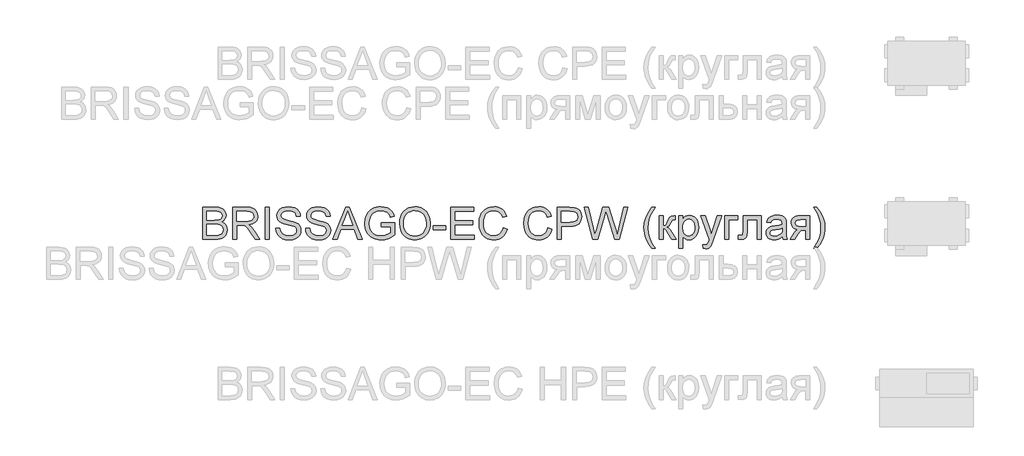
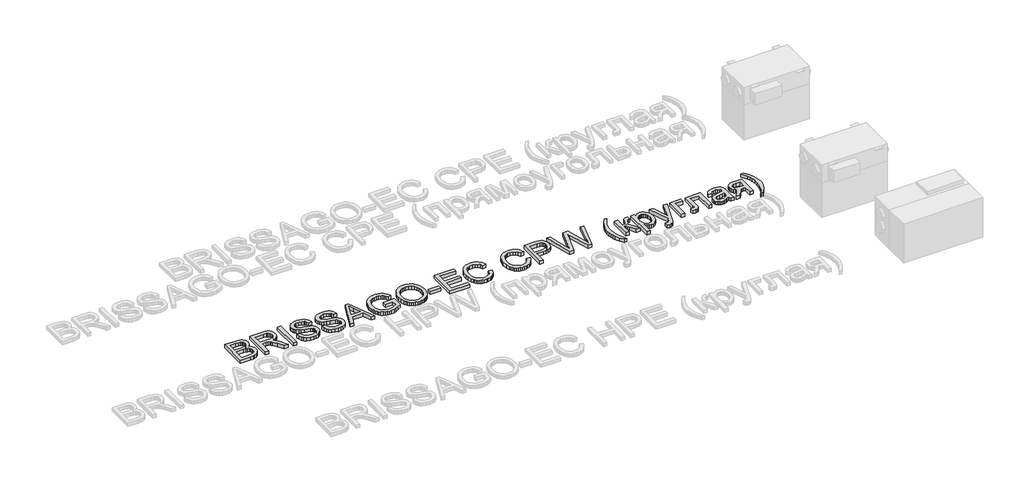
# One storey, part 10 of 28: 1 proxy.
"""IFC4 building model written with IfcOpenShell, lengths in millimetres."""

from ifc_helpers import new_model, si_unit, origin, origin_with_axes, place, context, project, spatial, polyline, outline, extrude, element, save

model = new_model("IFC4")

# Units and contexts
model_context = context("Model", 3, world=origin())
ifc_project = project(units=[si_unit("LENGTHUNIT", "METRE", prefix="MILLI")], contexts=[model_context])

# Site, building, storey
site = spatial("IfcSite", under=ifc_project)
building = spatial("IfcBuilding", under=site)
storey = spatial("IfcBuildingStorey", under=building, Name="Уровень 1", Elevation=0.0)

# Proxy
placement = place(None, origin())
element("IfcBuildingElementProxy", 1, Name="400 мм Arial", ObjectType="400 мм Arial", at=placement, inside=storey, context=model_context, shape_type="SweptSolid", body=[
    extrude(outline(polyline([(-29713.9650694, -4348.7092589), (-29713.9650694, -3946.8840183), (-29560.6318538, -3946.8840183), (-29518.4603145, -3949.839337), (-29485.5348759, -3958.705293), (-29460.298171, -3973.7026157), (-29441.1928327, -3995.0520342), (-29429.1630915, -4020.1661117), (-29425.1531778, -4046.4574116), (-29428.5254294, -4070.6517842), (-29438.6421842, -4093.3991542), (-29455.5770188, -4113.3015701), (-29479.4035093, -4128.9610804), (-29450.9417056, -4143.823513), (-29429.9111182, -4166.435993), (-29416.9248838, -4195.3024669), (-29412.596139, -4228.9268812), (-29415.5514577, -4256.9472265), (-29424.4174138, -4282.9319581), (-29437.6489029, -4305.0294033), (-29453.7008206, -4321.3878893), (-29473.3579819, -4333.2336896), (-29497.4052016, -4341.7930773), (-29526.6272948, -4346.9802135), (-29561.8090762, -4348.7092589), (-29713.9650694, -4348.7092589)]), holes=[polyline([(-29663.7369144, -4110.1255223), (-29572.0116702, -4110.1255223), (-29518.4480517, -4105.8090402), (-29499.6983327, -4098.3655611), (-29486.221589, -4087.2187367), (-29478.0913969, -4072.5402451), (-29475.3813328, -4054.5017646), (-29477.9074559, -4036.9905816), (-29485.485825, -4021.7357415), (-29497.7730836, -4009.8286276), (-29514.4258753, -4002.3606231), (-29539.9814112, -3998.4242858), (-29578.9769027, -3997.1121733), (-29663.7369144, -3997.1121733), (-29663.7369144, -4110.1255223)]), polyline([(-29663.7369144, -4298.4811038), (-29560.7299557, -4298.4811038), (-29523.4512469, -4296.5190665), (-29491.9114972, -4285.5807085), (-29480.335477, -4276.1506667), (-29471.0157998, -4263.2625341), (-29464.8721705, -4247.4926593), (-29462.8242941, -4229.4173906), (-29465.2277898, -4208.4235914), (-29472.4382769, -4190.3728481), (-29485.0321038, -4176.2584423), (-29503.5856191, -4167.0736551), (-29529.8646563, -4162.0336718), (-29565.635049, -4160.3536773), (-29663.7369144, -4160.3536773), (-29663.7369144, -4298.4811038)])]), origin_with_axes(), (0.0, 0.0, 1.0), 50.0),
    extrude(outline(polyline([(-29343.5324258, -4348.7092589), (-29343.5324258, -3946.8840183), (-29170.3826334, -3946.8840183), (-29123.845561, -3949.5940823), (-29089.9881547, -3957.7242744), (-29065.2419591, -3972.7338598), (-29046.038519, -3996.0821037), (-29033.7144722, -4025.0344168), (-29029.6064565, -4056.8562094), (-29031.3079108, -4077.4943893), (-29036.4122735, -4096.440312), (-29044.9195446, -4113.6939776), (-29056.8297242, -4129.255386), (-29072.2960964, -4142.6278965), (-29091.4719454, -4153.3148685), (-29114.3572712, -4161.3163019), (-29140.9520738, -4166.6321967), (-29112.4044309, -4188.1165052), (-29071.6921568, -4239.8161883), (-29004.6885827, -4348.7092589), (-29063.0591926, -4348.7092589), (-29115.3474869, -4265.4207751), (-29153.1167051, -4210.2875268), (-29167.1575345, -4194.2110836), (-29179.6532596, -4184.2414815), (-29203.5410639, -4174.6765497), (-29232.6773179, -4172.9107161), (-29293.3042707, -4172.9107161), (-29293.3042707, -4348.7092589), (-29343.5324258, -4348.7092589)]), holes=[polyline([(-29293.3042707, -4122.682561), (-29180.879533, -4122.682561), (-29148.5917565, -4120.9044647), (-29123.5389926, -4115.5701758), (-29104.678909, -4106.324075), (-29090.9691733, -4092.810543), (-29082.6182521, -4076.4643197), (-29079.8346116, -4058.7201448), (-29085.1443751, -4034.2192039), (-29101.0736655, -4014.4762035), (-29113.2352311, -4006.8794403), (-29128.4808741, -4001.4531809), (-29168.2243923, -3997.1121733), (-29293.3042707, -3997.1121733), (-29293.3042707, -4122.682561)])]), origin_with_axes(), (0.0, 0.0, 1.0), 50.0),
    extrude(outline(polyline([(-28935.4286658, -4348.7092589), (-28935.4286658, -3946.8840183), (-28885.2005107, -3946.8840183), (-28885.2005107, -4348.7092589), (-28935.4286658, -4348.7092589)])), origin_with_axes(), (0.0, 0.0, 1.0), 50.0),
    extrude(outline(polyline([(-28803.5797587, -4210.5818324), (-28753.3516036, -4210.5818324), (-28747.588119, -4238.4550249), (-28737.1647958, -4260.8590384), (-28720.9044117, -4278.6400015), (-28697.6297441, -4292.6440428), (-28669.1802031, -4301.7307281), (-28637.3951988, -4304.7596232), (-28609.4116417, -4302.4664921), (-28584.9107008, -4295.5870988), (-28565.0573358, -4284.6977917), (-28551.0165063, -4270.3749194), (-28542.665585, -4253.9305942), (-28539.8819446, -4236.6769286), (-28541.9666092, -4219.8647214), (-28548.2206031, -4205.3333826), (-28560.9247947, -4192.9357594), (-28582.3600523, -4182.5246989), (-28655.4949929, -4163.3457842), (-28703.5035933, -4150.6538554), (-28734.2217399, -4138.5750632), (-28759.2254528, -4121.6770169), (-28776.9451023, -4101.1982525), (-28787.5033155, -4077.5802284), (-28791.0227199, -4051.264403), (-28786.6694497, -4021.8461061), (-28773.6096388, -3994.414372), (-28752.186644, -3971.1642299), (-28722.7438216, -3954.2907091), (-28687.4026246, -3944.0268014), (-28648.2845058, -3940.6054989), (-28605.9045, -3944.186217), (-28568.8219949, -3954.9283712), (-28538.3613657, -3972.6112325), (-28515.8469875, -3997.0140715), (-28501.5976916, -4026.6163093), (-28495.9323089, -4059.8973672), (-28546.160464, -4059.8973672), (-28555.3820393, -4029.9272473), (-28563.7452233, -4018.0691843), (-28574.6100049, -4008.295786), (-28604.6537012, -3995.199187), (-28646.3224685, -3990.8336539), (-28688.9722545, -3995.150136), (-28705.2755582, -4000.5457386), (-28718.2311358, -4008.0995823), (-28735.1537076, -4027.1558696), (-28740.7945649, -4049.792875), (-28736.7969139, -4069.0944171), (-28724.8039608, -4084.6190373), (-28696.4525217, -4098.5004512), (-28642.7908014, -4112.6761708), (-28587.4122983, -4126.1406518), (-28553.9105113, -4137.8883502), (-28525.2770294, -4156.1107716), (-28505.301037, -4178.6006243), (-28493.5656014, -4205.1126534), (-28489.6537895, -4235.4016043), (-28494.1542126, -4266.3650056), (-28507.6554818, -4295.4889969), (-28529.6057742, -4320.5540235), (-28559.4532667, -4339.3405307), (-28595.3462867, -4351.0759664), (-28635.4331614, -4354.9877782), (-28684.6435097, -4350.769398), (-28725.1473173, -4338.1142574), (-28757.4105683, -4316.9733054), (-28781.8992465, -4287.2974911), (-28797.6200704, -4251.1469537), (-28803.5797587, -4210.5818324)])), origin_with_axes(), (0.0, 0.0, 1.0), 50.0),
    extrude(outline(polyline([(-28433.147115, -4210.5818324), (-28382.91896, -4210.5818324), (-28377.1554754, -4238.4550249), (-28366.7321522, -4260.8590384), (-28350.471768, -4278.6400015), (-28327.1971004, -4292.6440428), (-28298.7475595, -4301.7307281), (-28266.9625551, -4304.7596232), (-28238.978998, -4302.4664921), (-28214.4780571, -4295.5870988), (-28194.6246921, -4284.6977917), (-28180.5838626, -4270.3749194), (-28172.2329413, -4253.9305942), (-28169.4493009, -4236.6769286), (-28171.5339655, -4219.8647214), (-28177.7879594, -4205.3333826), (-28190.492151, -4192.9357594), (-28211.9274086, -4182.5246989), (-28285.0623492, -4163.3457842), (-28333.0709496, -4150.6538554), (-28363.7890962, -4138.5750632), (-28388.7928091, -4121.6770169), (-28406.5124586, -4101.1982525), (-28417.0706718, -4077.5802284), (-28420.5900763, -4051.264403), (-28416.236806, -4021.8461061), (-28403.1769952, -3994.414372), (-28381.7540003, -3971.1642299), (-28352.311178, -3954.2907091), (-28316.969981, -3944.0268014), (-28277.8518621, -3940.6054989), (-28235.4718563, -3944.186217), (-28198.3893512, -3954.9283712), (-28167.928722, -3972.6112325), (-28145.4143439, -3997.0140715), (-28131.1650479, -4026.6163093), (-28125.4996652, -4059.8973672), (-28175.7278203, -4059.8973672), (-28184.9493956, -4029.9272473), (-28193.3125796, -4018.0691843), (-28204.1773612, -4008.295786), (-28234.2210575, -3995.199187), (-28275.8898248, -3990.8336539), (-28318.5396108, -3995.150136), (-28334.8429146, -4000.5457386), (-28347.7984922, -4008.0995823), (-28364.7210639, -4027.1558696), (-28370.3619212, -4049.792875), (-28366.3642702, -4069.0944171), (-28354.3713171, -4084.6190373), (-28326.019878, -4098.5004512), (-28272.3581577, -4112.6761708), (-28216.9796547, -4126.1406518), (-28183.4778676, -4137.8883502), (-28154.8443857, -4156.1107716), (-28134.8683933, -4178.6006243), (-28123.1329577, -4205.1126534), (-28119.2211458, -4235.4016043), (-28123.7215689, -4266.3650056), (-28137.2228381, -4295.4889969), (-28159.1731305, -4320.5540235), (-28189.020623, -4339.3405307), (-28224.913643, -4351.0759664), (-28265.0005178, -4354.9877782), (-28314.210866, -4350.769398), (-28354.7146737, -4338.1142574), (-28386.9779246, -4316.9733054), (-28411.4666028, -4287.2974911), (-28427.1874267, -4251.1469537), (-28433.147115, -4210.5818324)])), origin_with_axes(), (0.0, 0.0, 1.0), 50.0),
    extrude(outline(polyline([(-28090.673503, -4348.7092589), (-27930.2769531, -3946.8840183), (-27887.5045398, -3946.8840183), (-27727.1079899, -4348.7092589), (-27780.1810991, -4348.7092589), (-27826.1908739, -4223.1388712), (-27991.6887208, -4223.1388712), (-28037.6003938, -4348.7092589), (-28090.673503, -4348.7092589)]), holes=[polyline([(-27973.2455701, -4172.9107161), (-27844.5359227, -4172.9107161), (-27880.7355111, -4074.1221377), (-27908.8907464, -3997.1121733), (-27933.9067221, -4065.4891735), (-27973.2455701, -4172.9107161)])]), origin_with_axes(), (0.0, 0.0, 1.0), 50.0),
    extrude(outline(polyline([(-27485.090688, -4191.7462742), (-27485.090688, -4141.5181192), (-27321.849184, -4141.5181192), (-27321.849184, -4291.7120751), (-27361.5191258, -4319.3032247), (-27402.4398664, -4339.0952761), (-27444.5133039, -4351.0146527), (-27487.6413365, -4354.9877782), (-27516.492482, -4353.4089513), (-27543.9885954, -4348.6724707), (-27570.1296769, -4340.7783362), (-27594.9157263, -4329.7265479), (-27617.5466004, -4315.6826527), (-27637.2221557, -4298.8121976), (-27653.9423924, -4279.1151824), (-27667.7073104, -4256.5916073), (-27678.4586617, -4231.9619077), (-27686.1381984, -4205.9465193), (-27690.7459203, -4178.545442), (-27692.2818277, -4149.7586759), (-27686.1627238, -4093.1661623), (-27678.513844, -4066.3506305), (-27667.8054123, -4040.5222488), (-27654.227501, -4016.8153199), (-27637.9701825, -3996.3641466), (-27619.0334568, -3979.168729), (-27597.4173239, -3965.2290671), (-27573.5908333, -3954.456256), (-27548.0230346, -3946.7613909), (-27520.7139279, -3942.1444719), (-27491.663513, -3940.6054989), (-27450.2890513, -3944.1739542), (-27413.0839188, -3954.8793203), (-27381.7526355, -3971.9490449), (-27357.9997214, -3994.6105758), (-27340.4272248, -4023.9552962), (-27327.6371941, -4061.0745896), (-27373.9412745, -4074.1221377), (-27384.2787586, -4047.6468967), (-27396.8480601, -4027.6709044), (-27413.4763263, -4012.6122681), (-27435.9907044, -4000.8890952), (-27462.8338273, -3993.3475143), (-27492.4483279, -3990.8336539), (-27527.1150746, -3993.543718), (-27556.7541007, -4001.6739101), (-27581.2550415, -4014.2064234), (-27600.5075326, -4030.123451), (-27615.2841261, -4048.6033899), (-27626.3573741, -4068.8246369), (-27638.129598, -4106.7410079), (-27642.0536726, -4147.6985367), (-27637.3325203, -4195.7316625), (-27623.1690635, -4235.2544515), (-27599.9924978, -4265.9848609), (-27568.2320189, -4287.6408477), (-27531.0636747, -4300.4799293), (-27491.663513, -4304.7596232), (-27456.874139, -4301.5345243), (-27422.9431563, -4291.8592279), (-27393.4758085, -4278.5296369), (-27372.0773391, -4264.3416546), (-27372.0773391, -4191.7462742), (-27485.090688, -4191.7462742)])), origin_with_axes(), (0.0, 0.0, 1.0), 50.0),
    extrude(outline(polyline([(-27259.0639902, -4153.0941393), (-27255.716264, -4105.9623243), (-27245.6730855, -4064.2383747), (-27228.9344548, -4027.9222904), (-27205.5003717, -3997.0140715), (-27176.7749192, -3972.335321), (-27144.1621803, -3954.707642), (-27107.662155, -3944.1310347), (-27067.2748433, -3940.6054989), (-27040.2416481, -3942.2609679), (-27014.5696162, -3947.2273748), (-26990.2587476, -3955.5047197), (-26967.3090425, -3967.0930025), (-26946.3642943, -3981.6427354), (-26928.0682964, -3998.8044305), (-26912.4210488, -4018.5780878), (-26899.4225517, -4040.9637072), (-26889.2076949, -4065.4523853), (-26881.9113687, -4091.5352188), (-26876.0743077, -4148.4833516), (-26877.610215, -4178.1407718), (-26882.217937, -4206.1917739), (-26889.8974737, -4232.636358), (-26900.648825, -4257.4745241), (-26914.2175392, -4280.0502158), (-26930.3491647, -4299.7073771), (-26949.0437015, -4316.4460079), (-26970.3011494, -4330.2661082), (-26993.2845771, -4341.0818388), (-27017.1570529, -4348.8073607), (-27041.9185768, -4353.4426739), (-27067.5691489, -4354.9877782), (-27095.0744594, -4353.2801926), (-27121.0837165, -4348.1574359), (-27145.5969201, -4339.6195079), (-27168.6140703, -4327.6664087), (-27189.5342931, -4312.7610566), (-27207.7567146, -4295.3663696), (-27223.2813348, -4275.4823477), (-27236.1081537, -4253.108991), (-27253.325031, -4204.487254), (-27259.0639902, -4153.0941393)]), holes=[polyline([(-27208.8358351, -4153.5846486), (-27206.3250405, -4186.8841005), (-27198.7926566, -4216.4434189), (-27186.2386835, -4242.2626036), (-27168.6631212, -4264.3416546), (-27147.2983743, -4282.0245159), (-27123.3768476, -4294.655131), (-27096.898541, -4302.2335001), (-27067.8634545, -4304.7596232), (-27038.3317274, -4302.2089747), (-27011.5407211, -4294.5570292), (-26987.4904356, -4281.8037867), (-26966.1808711, -4263.9492472), (-26948.7340674, -4241.4042122), (-26936.2720649, -4214.5794834), (-26928.7948633, -4183.4750607), (-26926.3024628, -4148.0909442), (-26930.5698939, -4103.6262737), (-26943.3721874, -4065.1948679), (-26964.3782493, -4033.7654828), (-26993.2569859, -4010.3068742), (-27028.0954109, -3995.701959), (-27066.9805377, -3990.8336539), (-27095.0070144, -3993.1789017), (-27121.0101401, -4000.2146448), (-27144.9899148, -4011.9408834), (-27166.9463386, -4028.3576175), (-27185.2729933, -4050.2557932), (-27198.363461, -4078.426357), (-27206.2177416, -4112.8693088), (-27208.8358351, -4153.5846486)])]), origin_with_axes(), (0.0, 0.0, 1.0), 50.0),
    extrude(outline(polyline([(-26838.4031914, -4229.4173906), (-26838.4031914, -4179.1892355), (-26681.4402068, -4179.1892355), (-26681.4402068, -4229.4173906), (-26838.4031914, -4229.4173906)])), origin_with_axes(), (0.0, 0.0, 1.0), 50.0),
    extrude(outline(polyline([(-26618.655013, -4348.7092589), (-26618.655013, -3946.8840183), (-26329.8431213, -3946.8840183), (-26329.8431213, -3997.1121733), (-26568.4268579, -3997.1121733), (-26568.4268579, -4116.4040416), (-26342.40016, -4116.4040416), (-26342.40016, -4166.6321967), (-26568.4268579, -4166.6321967), (-26568.4268579, -4298.4811038), (-26323.5646019, -4298.4811038), (-26323.5646019, -4348.7092589), (-26618.655013, -4348.7092589)])), origin_with_axes(), (0.0, 0.0, 1.0), 50.0),
    extrude(outline(polyline([(-25965.688997, -4205.8729429), (-25915.4608419, -4218.8223891), (-25925.3997871, -4250.0586362), (-25938.6374076, -4277.3524145), (-25955.1737033, -4300.7037242), (-25975.0086742, -4320.1125651), (-25997.6947306, -4335.3704708), (-26022.7842826, -4346.268975), (-26050.2773304, -4352.8080774), (-26080.1738739, -4354.9877782), (-26110.8031157, -4353.3384406), (-26138.4341192, -4348.3904278), (-26163.0668844, -4340.1437397), (-26184.7014114, -4328.5983765), (-26203.6350715, -4313.9260162), (-26220.1652358, -4296.2983373), (-26234.2919044, -4275.7153396), (-26246.0150773, -4252.1770233), (-26261.7972149, -4200.305662), (-26267.0579274, -4144.7554807), (-26261.1105018, -4086.1641416), (-26253.6762199, -4059.8667103), (-26243.2682251, -4035.5681046), (-26230.1195094, -4013.6699288), (-26214.4630649, -3994.5737876), (-26196.2988913, -3978.2796809), (-26175.6269889, -3964.7876087), (-26153.149399, -3954.2079356), (-26129.5681631, -3946.6510263), (-26079.0947534, -3940.6054989), (-26050.3662352, -3942.5614048), (-26024.0228187, -3948.4291226), (-26000.0645037, -3958.2086523), (-25978.4912904, -3971.8999939), (-25959.6587979, -3989.1413968), (-25943.9226456, -4009.5711102), (-25931.2828334, -4033.1891343), (-25921.7393613, -4059.995469), (-25971.9675164, -4071.9638966), (-25989.3805975, -4035.3351126), (-26013.1702998, -4010.2087724), (-26043.630929, -3995.6774336), (-26081.0567907, -3990.8336539), (-26124.197086, -3996.2047311), (-26142.87936, -4002.9185775), (-26159.6363848, -4012.3179625), (-26186.5285587, -4037.4810909), (-26204.0274789, -4070.0018593), (-26213.629199, -4106.7655334), (-26216.8297724, -4144.6573789), (-26213.0405878, -4191.0595612), (-26201.6730342, -4231.1832241), (-26182.2979157, -4263.495526), (-26154.4860369, -4286.4636253), (-26121.1436654, -4300.1856237), (-26085.177069, -4304.7596232), (-26063.3402069, -4303.2022561), (-26043.2507843, -4298.5301547), (-26024.9088012, -4290.7433192), (-26008.3142575, -4279.8417494), (-25993.8595608, -4265.8744963), (-25981.9371184, -4248.8906108), (-25972.5469305, -4228.890093), (-25965.688997, -4205.8729429)])), origin_with_axes(), (0.0, 0.0, 1.0), 50.0),
    extrude(outline(polyline([(-25406.9007718, -4205.8729429), (-25356.6726167, -4218.8223891), (-25366.6115619, -4250.0586362), (-25379.8491824, -4277.3524145), (-25396.3854781, -4300.7037242), (-25416.220449, -4320.1125651), (-25438.9065054, -4335.3704708), (-25463.9960574, -4346.268975), (-25491.4891052, -4352.8080774), (-25521.3856487, -4354.9877782), (-25552.0148905, -4353.3384406), (-25579.645894, -4348.3904278), (-25604.2786592, -4340.1437397), (-25625.9131862, -4328.5983765), (-25644.8468463, -4313.9260162), (-25661.3770106, -4296.2983373), (-25675.5036792, -4275.7153396), (-25687.2268521, -4252.1770233), (-25703.0089897, -4200.305662), (-25708.2697022, -4144.7554807), (-25702.3222766, -4086.1641416), (-25694.8879946, -4059.8667103), (-25684.4799999, -4035.5681046), (-25671.3312842, -4013.6699288), (-25655.6748396, -3994.5737876), (-25637.5106661, -3978.2796809), (-25616.8387637, -3964.7876087), (-25594.3611738, -3954.2079356), (-25570.7799379, -3946.6510263), (-25520.3065282, -3940.6054989), (-25491.57801, -3942.5614048), (-25465.2345935, -3948.4291226), (-25441.2762785, -3958.2086523), (-25419.7030652, -3971.8999939), (-25400.8705727, -3989.1413968), (-25385.1344204, -4009.5711102), (-25372.4946082, -4033.1891343), (-25362.9511361, -4059.995469), (-25413.1792912, -4071.9638966), (-25430.5923723, -4035.3351126), (-25454.3820746, -4010.2087724), (-25484.8427038, -3995.6774336), (-25522.2685655, -3990.8336539), (-25565.4088608, -3996.2047311), (-25584.0911348, -4002.9185775), (-25600.8481596, -4012.3179625), (-25627.7403335, -4037.4810909), (-25645.2392537, -4070.0018593), (-25654.8409738, -4106.7655334), (-25658.0415471, -4144.6573789), (-25654.2523626, -4191.0595612), (-25642.8848089, -4231.1832241), (-25623.5096905, -4263.495526), (-25595.6978117, -4286.4636253), (-25562.3554402, -4300.1856237), (-25526.3888438, -4304.7596232), (-25504.5519817, -4303.2022561), (-25484.4625591, -4298.5301547), (-25466.1205759, -4290.7433192), (-25449.5260323, -4279.8417494), (-25435.0713356, -4265.8744963), (-25423.1488932, -4248.8906108), (-25413.7587053, -4228.890093), (-25406.9007718, -4205.8729429)])), origin_with_axes(), (0.0, 0.0, 1.0), 50.0),
    extrude(outline(polyline([(-25287.6089035, -4348.7092589), (-25287.6089035, -3946.8840183), (-25138.6902718, -3946.8840183), (-25078.6519302, -3950.709991), (-25051.8823837, -3957.8591644), (-25029.8462522, -3969.4964982), (-25012.1020773, -3986.1492899), (-24998.2084006, -4008.3448369), (-24989.2320799, -4034.5257722), (-24986.239973, -4063.1347287), (-24988.2602583, -4087.8012165), (-24994.3211142, -4110.4934042), (-25004.4225406, -4131.2112919), (-25018.5645377, -4149.9548796), (-25037.97951, -4165.4917625), (-25063.8998622, -4176.589536), (-25096.3255944, -4183.2482002), (-25135.2567065, -4185.4677549), (-25237.3807484, -4185.4677549), (-25237.3807484, -4348.7092589), (-25287.6089035, -4348.7092589)]), holes=[polyline([(-25237.3807484, -4135.2395998), (-25132.3136506, -4135.2395998), (-25087.7754037, -4130.6288121), (-25071.171663, -4124.8653275), (-25058.3448441, -4116.7964491), (-25048.7737808, -4106.6367747), (-25041.9373071, -4094.6009021), (-25036.4681281, -4064.9005623), (-25039.6932269, -4042.3371333), (-25049.3685234, -4023.3053714), (-25064.2922697, -4008.982499), (-25083.2627179, -4000.5457386), (-25133.490873, -3997.1121733), (-25237.3807484, -3997.1121733), (-25237.3807484, -4135.2395998)])]), origin_with_axes(), (0.0, 0.0, 1.0), 50.0),
    extrude(outline(polyline([(-24845.2675925, -4348.7092589), (-24954.8473761, -3946.8840183), (-24903.0495912, -3946.8840183), (-24839.4795824, -4210.9742399), (-24819.8592093, -4292.49689), (-24798.8654101, -4220.3920189), (-24719.2066955, -3946.8840183), (-24644.5511759, -3946.8840183), (-24586.6710753, -4145.1478882), (-24561.8758289, -4218.7242872), (-24543.6043564, -4292.49689), (-24524.5725945, -4213.3286846), (-24460.4139746, -3946.8840183), (-24408.6161897, -3946.8840183), (-24518.2940752, -4348.7092589), (-24571.9557955, -4348.7092589), (-24668.2918273, -4038.7073643), (-24681.7317829, -3995.4444416), (-24696.8394702, -4047.5365321), (-24784.6406397, -4348.7092589), (-24845.2675925, -4348.7092589)])), origin_with_axes(), (0.0, 0.0, 1.0), 50.0),
    extrude(outline(polyline([(-24107.2472592, -4461.7226078), (-24146.1691743, -4407.1043942), (-24178.5673153, -4343.9022675), (-24191.3144265, -4309.8486574), (-24200.4195059, -4275.1819108), (-24205.8825535, -4239.9020274), (-24207.7035694, -4204.0090074), (-24202.2589158, -4141.5916956), (-24185.9249552, -4081.872185), (-24153.5022887, -4014.2309488), (-24107.2472592, -3946.8840183), (-24069.5761429, -3946.8840183), (-24116.5669364, -4026.4446311), (-24132.6065914, -4064.2138493), (-24144.8202737, -4103.5526973), (-24154.3116291, -4153.8053778), (-24157.4754143, -4204.303313), (-24151.9817098, -4268.6949249), (-24135.5005964, -4333.0620113), (-24108.0320741, -4397.4045723), (-24069.5761429, -4461.7226078), (-24107.2472592, -4461.7226078)])), origin_with_axes(), (0.0, 0.0, 1.0), 50.0),
    extrude(outline(polyline([(-24019.3479878, -4053.6188478), (-23969.1198328, -4053.6188478), (-23969.1198328, -4179.1892355), (-23948.6901193, -4176.9328926), (-23935.4708929, -4170.1638639), (-23923.7722455, -4152.5055281), (-23907.9042688, -4117.581264), (-23884.9974832, -4072.2091513), (-23875.5551787, -4063.0488896), (-23864.7884989, -4057.4448205), (-23828.0493503, -4053.6188478), (-23818.4353675, -4053.6188478), (-23818.4353675, -4104.1413085), (-23831.973425, -4103.8470029), (-23847.6697234, -4105.1713781), (-23856.4988913, -4109.1445036), (-23873.7648196, -4142.2048322), (-23884.3720838, -4164.2409637), (-23894.0228548, -4177.9629622), (-23905.7092395, -4187.1232238), (-23922.4233448, -4195.4741451), (-23906.5063172, -4202.5436108), (-23890.7364423, -4215.0209418), (-23875.1137203, -4232.9061381), (-23859.638151, -4256.1991998), (-23805.8783288, -4348.7092589), (-23862.9736144, -4348.7092589), (-23915.6543161, -4258.1612371), (-23929.8790866, -4234.0649664), (-23942.1418198, -4219.8524587), (-23954.5271803, -4212.899489), (-23969.1198328, -4210.5818324), (-23969.1198328, -4348.7092589), (-24019.3479878, -4348.7092589), (-24019.3479878, -4053.6188478)])), origin_with_axes(), (0.0, 0.0, 1.0), 50.0),
    extrude(outline(polyline([(-23774.4857318, -4461.7226078), (-23774.4857318, -4053.6188478), (-23724.2575768, -4053.6188478), (-23724.2575768, -4102.8659842), (-23707.8745653, -4078.5735098), (-23689.5295164, -4061.2217424), (-23668.1433098, -4050.8106819), (-23642.6368248, -4047.3403284), (-23608.6690539, -4052.1963707), (-23578.9687141, -4066.7644978), (-23554.7866043, -4090.1617926), (-23537.3735232, -4121.5053386), (-23526.8520982, -4158.5142674), (-23523.3449565, -4198.9077104), (-23527.3058193, -4241.8640647), (-23539.1884077, -4280.2832078), (-23558.6125771, -4312.2153649), (-23585.1981826, -4335.7107617), (-23616.1615839, -4350.1685241), (-23648.7191404, -4354.9877782), (-23671.809867, -4351.7626794), (-23692.4235215, -4342.0873829), (-23710.0695945, -4327.4824677), (-23724.2575768, -4309.4685127), (-23724.2575768, -4461.7226078), (-23774.4857318, -4461.7226078)]), holes=[polyline([(-23724.2575768, -4203.5184981), (-23718.825186, -4248.5472543), (-23712.0346975, -4265.9848609), (-23702.5280136, -4280.0379531), (-23678.4807938, -4298.5792056), (-23664.7189415, -4303.2145188), (-23649.7982609, -4304.7596232), (-23634.6629825, -4303.1593365), (-23620.6497442, -4298.3584765), (-23607.7585459, -4290.3570431), (-23595.9893878, -4279.1550363), (-23586.1822669, -4264.5930407), (-23579.1771806, -4246.5116406), (-23574.9741288, -4224.9108361), (-23573.5731115, -4199.7906272), (-23579.0422905, -4155.0071257), (-23585.8787643, -4137.434629), (-23595.4498275, -4123.0749685), (-23619.4602591, -4103.9451047), (-23633.0657615, -4099.1626388), (-23647.7381218, -4097.5684835), (-23662.3644968, -4099.2638063), (-23676.1263491, -4104.3497749), (-23701.0564856, -4124.6936493), (-23711.206963, -4139.7921395), (-23718.457304, -4157.9624444), (-23722.8075086, -4179.2045639), (-23724.2575768, -4203.5184981)])]), origin_with_axes(), (0.0, 0.0, 1.0), 50.0),
    extrude(outline(polyline([(-23466.838282, -4461.7226078), (-23473.1168014, -4413.3583881), (-23447.6103164, -4417.7729721), (-23434.1948863, -4416.3872832), (-23423.7715631, -4412.2302167), (-23409.1543852, -4396.7791729), (-23395.420124, -4359.7947696), (-23391.4960494, -4347.6301383), (-23498.2308789, -4053.6188478), (-23445.2558716, -4053.6188478), (-23388.6510953, -4217.448963), (-23368.9326204, -4282.9810091), (-23349.2141454, -4225.1009085), (-23291.0397392, -4053.6188478), (-23238.4571394, -4053.6188478), (-23341.1697925, -4355.7725932), (-23367.8534998, -4421.3046392), (-23381.5141846, -4442.224862), (-23396.9897539, -4456.7194126), (-23414.9669207, -4465.1806985), (-23436.1323981, -4468.0011272), (-23466.838282, -4461.7226078)])), origin_with_axes(), (0.0, 0.0, 1.0), 50.0),
    extrude(outline(polyline([(-23196.8619485, -4053.6188478), (-23033.6204445, -4053.6188478), (-23033.6204445, -4103.8470029), (-23146.6337934, -4103.8470029), (-23146.6337934, -4348.7092589), (-23196.8619485, -4348.7092589), (-23196.8619485, -4053.6188478)])), origin_with_axes(), (0.0, 0.0, 1.0), 50.0),
    extrude(outline(polyline([(-22970.8352506, -4053.6188478), (-22744.8085528, -4053.6188478), (-22744.8085528, -4348.4149533), (-22795.0367079, -4348.4149533), (-22795.0367079, -4103.8470029), (-22920.6070956, -4103.8470029), (-22920.6070956, -4244.6231797), (-22923.9916099, -4309.5666146), (-22930.331443, -4324.2696316), (-22942.5819134, -4336.9860859), (-22961.1722169, -4345.7784656), (-22986.5315491, -4348.7092589), (-23027.3419251, -4346.1586104), (-23027.3419251, -4298.4811038), (-23004.8765979, -4298.4811038), (-22982.1660161, -4295.390895), (-22973.0915936, -4285.5807085), (-22970.8352506, -4241.7782256), (-22970.8352506, -4053.6188478)])), origin_with_axes(), (0.0, 0.0, 1.0), 50.0),
    extrude(outline(polyline([(-22481.1107387, -4311.0381426), (-22505.1089075, -4331.6150088), (-22529.8183148, -4345.0794898), (-22555.8030464, -4352.5107061), (-22583.627188, -4354.9877782), (-22605.9913476, -4353.4978562), (-22625.6025236, -4349.0280899), (-22642.4607161, -4341.5784795), (-22656.5659249, -4331.149025), (-22667.7035523, -4318.4019138), (-22675.6590005, -4303.9993337), (-22680.4322693, -4287.9412846), (-22682.023359, -4270.2277666), (-22679.6198633, -4249.4056456), (-22672.4093762, -4230.4965111), (-22661.2870772, -4214.3097033), (-22647.1481458, -4201.6545627), (-22630.5321424, -4192.0896308), (-22611.9786271, -4185.1734493), (-22568.5195007, -4177.6196056), (-22517.1631742, -4169.6733545), (-22481.4050443, -4160.3536773), (-22481.1107387, -4149.1700647), (-22484.5688294, -4126.7537884), (-22494.9431017, -4112.0875596), (-22518.1441928, -4101.1982525), (-22550.4687575, -4097.5684835), (-22580.3898264, -4099.9842419), (-22601.2855238, -4107.2315172), (-22615.5348197, -4120.6346846), (-22625.5166845, -4141.5181192), (-22675.7448396, -4135.2395998), (-22667.0260363, -4107.7710775), (-22654.0152764, -4086.1886671), (-22635.4985493, -4069.6830282), (-22610.2618444, -4057.4448205), (-22579.396545, -4049.8664514), (-22543.9940344, -4047.3403284), (-22510.0385262, -4049.5721458), (-22483.1218269, -4056.2675982), (-22462.8270035, -4066.3353021), (-22448.7371231, -4078.6838744), (-22439.3929204, -4093.9509772), (-22433.3351302, -4112.7742726), (-22430.8825836, -4156.7239083), (-22430.8825836, -4219.2147966), (-22428.3319351, -4306.4764058), (-22418.3255448, -4348.7092589), (-22468.5536999, -4348.7092589), (-22476.5980529, -4331.2471268), (-22481.1107387, -4311.0381426)]), holes=[polyline([(-22481.1107387, -4210.5818324), (-22514.8577804, -4218.9450164), (-22562.1428795, -4225.9838253), (-22605.3567512, -4234.1262801), (-22616.6016775, -4239.693561), (-22624.9280733, -4247.3700319), (-22630.0784212, -4256.5670818), (-22631.7952039, -4266.6960994), (-22628.0550703, -4281.6321084), (-22616.8346694, -4293.8703161), (-22598.379256, -4302.0372964), (-22572.9340847, -4304.7596232), (-22545.9560717, -4301.7552535), (-22522.1173184, -4292.7421447), (-22502.7912509, -4279.4616046), (-22489.3512954, -4263.6549416), (-22483.391607, -4247.3700319), (-22481.4050443, -4224.8066029), (-22481.1107387, -4210.5818324)])]), origin_with_axes(), (0.0, 0.0, 1.0), 50.0),
    extrude(outline(polyline([(-22135.7921725, -4053.6188478), (-22135.7921725, -4348.7092589), (-22186.0203276, -4348.7092589), (-22186.0203276, -4235.6959099), (-22213.390748, -4235.6959099), (-22235.2184131, -4237.2900653), (-22250.6694569, -4242.0725312), (-22265.556415, -4255.9784706), (-22285.6918228, -4284.9430464), (-22325.7173839, -4348.7092589), (-22383.7936882, -4348.7092589), (-22333.3693294, -4268.0695255), (-22311.100206, -4239.1294752), (-22290.5969161, -4226.2781309), (-22324.932569, -4215.7567058), (-22338.2744227, -4206.945932), (-22349.0656279, -4195.7684507), (-22363.3394493, -4169.1828452), (-22368.0973897, -4138.8693688), (-22366.4725776, -4120.7818374), (-22361.5981412, -4104.484665), (-22353.4740804, -4089.9778516), (-22342.1003954, -4077.2613973), (-22327.6487644, -4066.9177819), (-22310.2908656, -4059.5294852), (-22290.026699, -4055.0965071), (-22266.8562647, -4053.6188478), (-22135.7921725, -4053.6188478)]), holes=[polyline([(-22186.0203276, -4103.8470029), (-22252.2390867, -4103.8470029), (-22286.4398496, -4106.7532706), (-22305.8517562, -4115.4720739), (-22314.864865, -4128.0904264), (-22317.8692347, -4142.6953416), (-22313.442388, -4161.837468), (-22300.161848, -4175.1180081), (-22275.6241189, -4182.8803182), (-22237.4257051, -4185.4677549), (-22186.0203276, -4185.4677549), (-22186.0203276, -4103.8470029)])]), origin_with_axes(), (0.0, 0.0, 1.0), 50.0),
    extrude(outline(polyline([(-22047.8929011, -4461.7226078), (-22085.5640175, -4461.7226078), (-22047.1080862, -4397.4045723), (-22019.6395639, -4333.0620113), (-22003.1584505, -4268.6949249), (-21997.6647461, -4204.303313), (-22000.8285312, -4154.1732598), (-22010.3198867, -4104.4356141), (-22022.3128397, -4065.0231896), (-22038.2789183, -4027.229446), (-22085.5640175, -3946.8840183), (-22047.8929011, -3946.8840183), (-22001.6378716, -4014.2309488), (-21969.2152051, -4081.872185), (-21952.8812445, -4141.5916956), (-21947.436591, -4204.0090074), (-21949.2668039, -4239.9020274), (-21954.7574427, -4275.1819108), (-21963.9085073, -4309.8486574), (-21976.7199978, -4343.9022675), (-22009.1549271, -4407.1043942), (-22047.8929011, -4461.7226078)])), origin_with_axes(), (0.0, 0.0, 1.0), 50.0),
])

save(model, "model.ifc")
